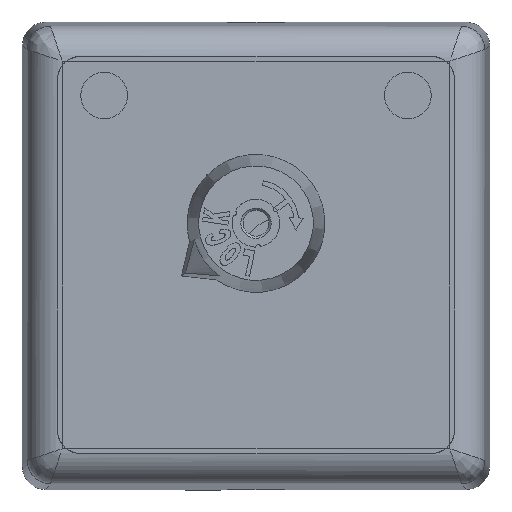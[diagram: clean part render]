
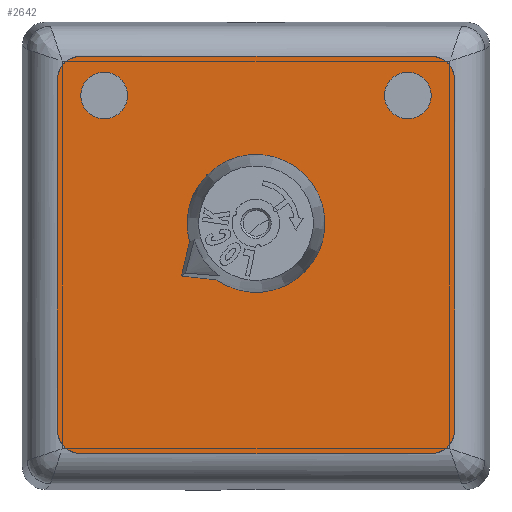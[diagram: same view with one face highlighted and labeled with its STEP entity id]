
A CAD part, top view. The second image highlights one B-rep face of the part: STEP entity #2642.
In plain terms, the highlighted planar face has unit normal (0, 0, 1).
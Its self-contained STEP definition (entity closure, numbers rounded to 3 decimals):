
#2425=CARTESIAN_POINT('',(-3.384,-2.133,44.84));
#2426=VERTEX_POINT('',#2425);
#2454=CARTESIAN_POINT('',(-6.374,-1.798,44.84));
#2455=VERTEX_POINT('',#2454);
#2462=CARTESIAN_POINT('',(-3.384,-2.133,44.84));
#2463=DIRECTION('',(-0.994,0.111,0.0));
#2464=VECTOR('',#2463,3.009);
#2465=LINE('',#2462,#2464);
#2466=EDGE_CURVE('',#2426,#2455,#2465,.T.);
#2476=CARTESIAN_POINT('',(-5.688,1.131,44.84));
#2477=VERTEX_POINT('',#2476);
#2493=CARTESIAN_POINT('',(-6.374,-1.798,44.84));
#2494=DIRECTION('',(0.228,0.974,0.));
#2495=VECTOR('',#2494,3.009);
#2496=LINE('',#2493,#2495);
#2497=EDGE_CURVE('',#2455,#2477,#2496,.T.);
#2524=CARTESIAN_POINT('',(0.,2.7,44.84));
#2525=DIRECTION('',(0.,0.,-1.0));
#2526=DIRECTION('',(-0.817,-0.577,0.));
#2527=AXIS2_PLACEMENT_3D('',#2524,#2525,#2526);
#2528=CIRCLE('',#2527,5.9);
#2529=EDGE_CURVE('',#2477,#2426,#2528,.T.);
#2540=CARTESIAN_POINT('',(0.,0.,44.84));
#2541=DIRECTION('',(0.0,0.0,1.0));
#2542=DIRECTION('',(-1.0,0.0,0.0));
#2543=AXIS2_PLACEMENT_3D('',#2540,#2541,#2542);
#2544=PLANE('',#2543);
#2545=CARTESIAN_POINT('',(17.0,-15.0,44.84));
#2546=VERTEX_POINT('',#2545);
#2547=CARTESIAN_POINT('',(15.,-17.0,44.84));
#2548=VERTEX_POINT('',#2547);
#2549=CARTESIAN_POINT('',(15.,-15.0,44.84));
#2550=DIRECTION('',(0.,0.,-1.0));
#2551=DIRECTION('',(0.707,-0.707,0.));
#2552=AXIS2_PLACEMENT_3D('',#2549,#2550,#2551);
#2553=CIRCLE('',#2552,2.0);
#2554=EDGE_CURVE('',#2546,#2548,#2553,.T.);
#2555=ORIENTED_EDGE('',*,*,#2554,.F.);
#2556=CARTESIAN_POINT('',(17.0,15.,44.84));
#2557=VERTEX_POINT('',#2556);
#2558=CARTESIAN_POINT('',(17.0,15.0,44.84));
#2559=DIRECTION('',(0.0,-1.0,0.0));
#2560=VECTOR('',#2559,30.0);
#2561=LINE('',#2558,#2560);
#2562=EDGE_CURVE('',#2557,#2546,#2561,.T.);
#2563=ORIENTED_EDGE('',*,*,#2562,.F.);
#2564=CARTESIAN_POINT('',(15.0,17.0,44.84));
#2565=VERTEX_POINT('',#2564);
#2566=CARTESIAN_POINT('',(15.0,15.,44.84));
#2567=DIRECTION('',(0.,0.,-1.0));
#2568=DIRECTION('',(0.707,0.707,0.));
#2569=AXIS2_PLACEMENT_3D('',#2566,#2567,#2568);
#2570=CIRCLE('',#2569,2.0);
#2571=EDGE_CURVE('',#2565,#2557,#2570,.T.);
#2572=ORIENTED_EDGE('',*,*,#2571,.F.);
#2573=CARTESIAN_POINT('',(-15.,17.0,44.84));
#2574=VERTEX_POINT('',#2573);
#2575=CARTESIAN_POINT('',(-15.0,17.0,44.84));
#2576=DIRECTION('',(1.0,0.0,0.0));
#2577=VECTOR('',#2576,30.0);
#2578=LINE('',#2575,#2577);
#2579=EDGE_CURVE('',#2574,#2565,#2578,.T.);
#2580=ORIENTED_EDGE('',*,*,#2579,.F.);
#2581=CARTESIAN_POINT('',(-17.0,15.0,44.84));
#2582=VERTEX_POINT('',#2581);
#2583=CARTESIAN_POINT('',(-15.,15.0,44.84));
#2584=DIRECTION('',(0.,0.,-1.0));
#2585=DIRECTION('',(-0.707,0.707,0.));
#2586=AXIS2_PLACEMENT_3D('',#2583,#2584,#2585);
#2587=CIRCLE('',#2586,2.0);
#2588=EDGE_CURVE('',#2582,#2574,#2587,.T.);
#2589=ORIENTED_EDGE('',*,*,#2588,.F.);
#2590=CARTESIAN_POINT('',(-17.0,-15.,44.84));
#2591=VERTEX_POINT('',#2590);
#2592=CARTESIAN_POINT('',(-17.0,-15.0,44.84));
#2593=DIRECTION('',(0.0,1.0,0.0));
#2594=VECTOR('',#2593,30.0);
#2595=LINE('',#2592,#2594);
#2596=EDGE_CURVE('',#2591,#2582,#2595,.T.);
#2597=ORIENTED_EDGE('',*,*,#2596,.F.);
#2598=CARTESIAN_POINT('',(-15.0,-17.0,44.84));
#2599=VERTEX_POINT('',#2598);
#2600=CARTESIAN_POINT('',(-15.0,-15.,44.84));
#2601=DIRECTION('',(0.,0.,-1.0));
#2602=DIRECTION('',(-0.707,-0.707,0.));
#2603=AXIS2_PLACEMENT_3D('',#2600,#2601,#2602);
#2604=CIRCLE('',#2603,2.0);
#2605=EDGE_CURVE('',#2599,#2591,#2604,.T.);
#2606=ORIENTED_EDGE('',*,*,#2605,.F.);
#2607=CARTESIAN_POINT('',(15.0,-17.0,44.84));
#2608=DIRECTION('',(-1.0,0.0,0.0));
#2609=VECTOR('',#2608,30.0);
#2610=LINE('',#2607,#2609);
#2611=EDGE_CURVE('',#2548,#2599,#2610,.T.);
#2612=ORIENTED_EDGE('',*,*,#2611,.F.);
#2613=EDGE_LOOP('',(#2555,#2563,#2572,#2580,#2589,#2597,#2606,#2612));
#2614=FACE_OUTER_BOUND('',#2613,.T.);
#2615=CARTESIAN_POINT('',(11.0,13.65,44.84));
#2616=VERTEX_POINT('',#2615);
#2617=CARTESIAN_POINT('',(13.0,13.65,44.84));
#2618=DIRECTION('',(0.0,0.0,-1.0));
#2619=DIRECTION('',(-1.0,0.0,0.0));
#2620=AXIS2_PLACEMENT_3D('',#2617,#2618,#2619);
#2621=CIRCLE('',#2620,2.0);
#2622=EDGE_CURVE('',#2616,#2616,#2621,.T.);
#2623=ORIENTED_EDGE('',*,*,#2622,.T.);
#2624=EDGE_LOOP('',(#2623));
#2625=FACE_BOUND('',#2624,.T.);
#2626=CARTESIAN_POINT('',(-15.0,13.65,44.84));
#2627=VERTEX_POINT('',#2626);
#2628=CARTESIAN_POINT('',(-13.0,13.65,44.84));
#2629=DIRECTION('',(0.0,0.0,-1.0));
#2630=DIRECTION('',(-1.0,0.0,0.0));
#2631=AXIS2_PLACEMENT_3D('',#2628,#2629,#2630);
#2632=CIRCLE('',#2631,2.0);
#2633=EDGE_CURVE('',#2627,#2627,#2632,.T.);
#2634=ORIENTED_EDGE('',*,*,#2633,.T.);
#2635=EDGE_LOOP('',(#2634));
#2636=FACE_BOUND('',#2635,.T.);
#2637=ORIENTED_EDGE('',*,*,#2466,.T.);
#2638=ORIENTED_EDGE('',*,*,#2497,.T.);
#2639=ORIENTED_EDGE('',*,*,#2529,.T.);
#2640=EDGE_LOOP('',(#2637,#2638,#2639));
#2641=FACE_BOUND('',#2640,.T.);
#2642=ADVANCED_FACE('',(#2614,#2625,#2636,#2641),#2544,.T.);
